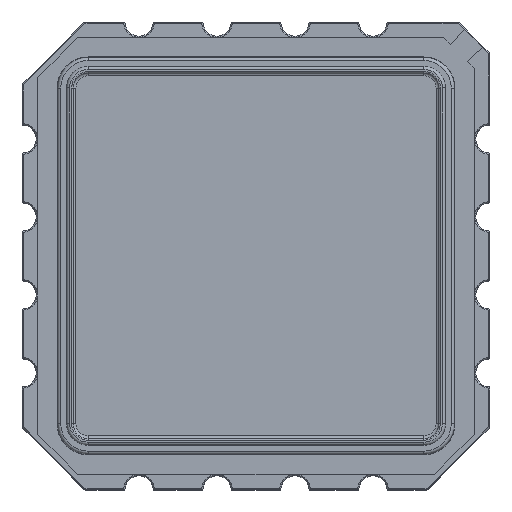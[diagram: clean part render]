
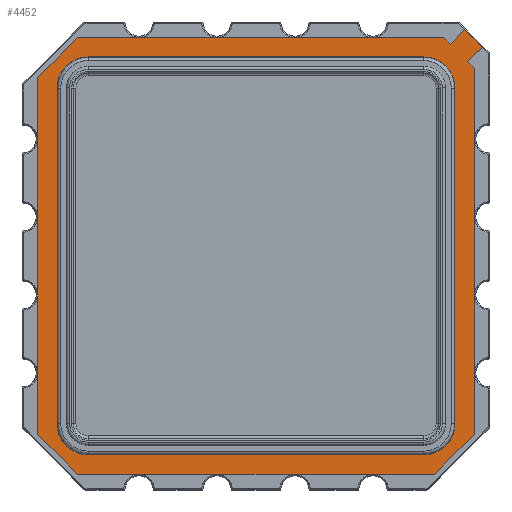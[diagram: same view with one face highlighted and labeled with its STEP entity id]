
A CAD part, top view. The second image highlights one B-rep face of the part: STEP entity #4452.
In plain terms, the highlighted planar face has unit normal (0, 0, 1).
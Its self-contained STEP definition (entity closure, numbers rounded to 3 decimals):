
#108=FACE_BOUND('',#808,.T.);
#318=PLANE('',#4780);
#566=FACE_OUTER_BOUND('',#807,.T.);
#807=EDGE_LOOP('',(#3885,#3886,#3887,#3888,#3889,#3890,#3891,#3892,#3893,
#3894,#3895,#3896));
#808=EDGE_LOOP('',(#3897,#3898,#3899,#3900,#3901,#3902,#3903,#3904));
#1243=LINE('',#7147,#1711);
#1246=LINE('',#7168,#1714);
#1247=LINE('',#7171,#1715);
#1249=LINE('',#7175,#1717);
#1251=LINE('',#7179,#1719);
#1253=LINE('',#7183,#1721);
#1255=LINE('',#7187,#1723);
#1257=LINE('',#7191,#1725);
#1259=LINE('',#7195,#1727);
#1261=LINE('',#7199,#1729);
#1263=LINE('',#7203,#1731);
#1265=LINE('',#7206,#1733);
#1266=LINE('',#7212,#1734);
#1267=LINE('',#7216,#1735);
#1268=LINE('',#7220,#1736);
#1269=LINE('',#7223,#1737);
#1711=VECTOR('',#5699,1000.);
#1714=VECTOR('',#5720,1000.);
#1715=VECTOR('',#5723,1000.);
#1717=VECTOR('',#5727,1000.);
#1719=VECTOR('',#5731,1000.);
#1721=VECTOR('',#5735,1000.);
#1723=VECTOR('',#5739,1000.);
#1725=VECTOR('',#5743,1000.);
#1727=VECTOR('',#5747,1000.);
#1729=VECTOR('',#5751,1000.);
#1731=VECTOR('',#5755,1000.);
#1733=VECTOR('',#5759,1000.);
#1734=VECTOR('',#5764,1000.);
#1735=VECTOR('',#5767,1000.);
#1736=VECTOR('',#5770,1000.);
#1737=VECTOR('',#5773,1000.);
#1870=CIRCLE('',#4781,0.51);
#1871=CIRCLE('',#4782,0.51);
#1872=CIRCLE('',#4783,0.51);
#1873=CIRCLE('',#4784,0.51);
#2229=VERTEX_POINT('',#7144);
#2230=VERTEX_POINT('',#7146);
#2231=VERTEX_POINT('',#7166);
#2232=VERTEX_POINT('',#7170);
#2233=VERTEX_POINT('',#7174);
#2234=VERTEX_POINT('',#7178);
#2235=VERTEX_POINT('',#7182);
#2236=VERTEX_POINT('',#7186);
#2237=VERTEX_POINT('',#7190);
#2238=VERTEX_POINT('',#7194);
#2239=VERTEX_POINT('',#7198);
#2240=VERTEX_POINT('',#7202);
#2241=VERTEX_POINT('',#7208);
#2242=VERTEX_POINT('',#7209);
#2243=VERTEX_POINT('',#7211);
#2244=VERTEX_POINT('',#7213);
#2245=VERTEX_POINT('',#7215);
#2246=VERTEX_POINT('',#7217);
#2247=VERTEX_POINT('',#7219);
#2248=VERTEX_POINT('',#7221);
#2780=EDGE_CURVE('',#2229,#2230,#1243,.T.);
#2785=EDGE_CURVE('',#2231,#2229,#1246,.T.);
#2786=EDGE_CURVE('',#2230,#2232,#1247,.T.);
#2788=EDGE_CURVE('',#2232,#2233,#1249,.T.);
#2790=EDGE_CURVE('',#2234,#2233,#1251,.T.);
#2792=EDGE_CURVE('',#2235,#2234,#1253,.T.);
#2794=EDGE_CURVE('',#2236,#2235,#1255,.T.);
#2796=EDGE_CURVE('',#2237,#2236,#1257,.T.);
#2798=EDGE_CURVE('',#2238,#2237,#1259,.T.);
#2800=EDGE_CURVE('',#2239,#2238,#1261,.T.);
#2802=EDGE_CURVE('',#2240,#2239,#1263,.T.);
#2804=EDGE_CURVE('',#2231,#2240,#1265,.T.);
#2805=EDGE_CURVE('',#2241,#2242,#1870,.T.);
#2806=EDGE_CURVE('',#2243,#2241,#1266,.T.);
#2807=EDGE_CURVE('',#2244,#2243,#1871,.T.);
#2808=EDGE_CURVE('',#2245,#2244,#1267,.T.);
#2809=EDGE_CURVE('',#2246,#2245,#1872,.T.);
#2810=EDGE_CURVE('',#2247,#2246,#1268,.T.);
#2811=EDGE_CURVE('',#2248,#2247,#1873,.T.);
#2812=EDGE_CURVE('',#2242,#2248,#1269,.T.);
#3885=ORIENTED_EDGE('',*,*,#2780,.F.);
#3886=ORIENTED_EDGE('',*,*,#2785,.F.);
#3887=ORIENTED_EDGE('',*,*,#2804,.T.);
#3888=ORIENTED_EDGE('',*,*,#2802,.T.);
#3889=ORIENTED_EDGE('',*,*,#2800,.T.);
#3890=ORIENTED_EDGE('',*,*,#2798,.T.);
#3891=ORIENTED_EDGE('',*,*,#2796,.T.);
#3892=ORIENTED_EDGE('',*,*,#2794,.T.);
#3893=ORIENTED_EDGE('',*,*,#2792,.T.);
#3894=ORIENTED_EDGE('',*,*,#2790,.T.);
#3895=ORIENTED_EDGE('',*,*,#2788,.F.);
#3896=ORIENTED_EDGE('',*,*,#2786,.F.);
#3897=ORIENTED_EDGE('',*,*,#2805,.F.);
#3898=ORIENTED_EDGE('',*,*,#2806,.F.);
#3899=ORIENTED_EDGE('',*,*,#2807,.F.);
#3900=ORIENTED_EDGE('',*,*,#2808,.F.);
#3901=ORIENTED_EDGE('',*,*,#2809,.F.);
#3902=ORIENTED_EDGE('',*,*,#2810,.F.);
#3903=ORIENTED_EDGE('',*,*,#2811,.F.);
#3904=ORIENTED_EDGE('',*,*,#2812,.F.);
#4452=ADVANCED_FACE('',(#566,#108),#318,.F.);
#4780=AXIS2_PLACEMENT_3D('',#7207,#5760,#5761);
#4781=AXIS2_PLACEMENT_3D('',#7210,#5762,#5763);
#4782=AXIS2_PLACEMENT_3D('',#7214,#5765,#5766);
#4783=AXIS2_PLACEMENT_3D('',#7218,#5768,#5769);
#4784=AXIS2_PLACEMENT_3D('',#7222,#5771,#5772);
#5699=DIRECTION('',(0.707,-0.707,0.));
#5720=DIRECTION('',(0.707,0.707,0.));
#5723=DIRECTION('',(-0.707,-0.707,0.));
#5727=DIRECTION('',(0.707,-0.707,0.));
#5731=DIRECTION('',(0.,1.,0.));
#5735=DIRECTION('',(0.707,0.707,0.));
#5739=DIRECTION('',(1.,0.,0.));
#5743=DIRECTION('',(0.707,-0.707,0.));
#5747=DIRECTION('',(0.,-1.,0.));
#5751=DIRECTION('',(-0.707,-0.707,0.));
#5755=DIRECTION('',(-1.,0.,0.));
#5759=DIRECTION('',(-0.707,0.707,0.));
#5760=DIRECTION('center_axis',(0.,0.,-1.));
#5761=DIRECTION('ref_axis',(-1.,0.,0.));
#5762=DIRECTION('center_axis',(0.,0.,1.));
#5763=DIRECTION('ref_axis',(-1.,0.,0.));
#5764=DIRECTION('',(-1.,0.,0.));
#5765=DIRECTION('center_axis',(0.,0.,1.));
#5766=DIRECTION('ref_axis',(0.,1.,0.));
#5767=DIRECTION('',(0.,1.,0.));
#5768=DIRECTION('center_axis',(0.,0.,1.));
#5769=DIRECTION('ref_axis',(1.,0.,0.));
#5770=DIRECTION('',(1.,0.,0.));
#5771=DIRECTION('center_axis',(0.,0.,
1.));
#5772=DIRECTION('ref_axis',(0.,-1.,0.));
#5773=DIRECTION('',(0.,-1.,0.));
#7144=CARTESIAN_POINT('',(3.401,3.684,1.677));
#7146=CARTESIAN_POINT('',(3.684,3.401,1.677));
#7147=CARTESIAN_POINT('',(3.401,3.684,1.677));
#7166=CARTESIAN_POINT('',(3.165,3.447,1.677));
#7168=CARTESIAN_POINT('',(3.165,3.447,1.677));
#7170=CARTESIAN_POINT('',(3.447,3.165,1.677));
#7171=CARTESIAN_POINT('',(3.684,3.401,1.677));
#7174=CARTESIAN_POINT('',(3.556,3.056,1.677));
#7175=CARTESIAN_POINT('',(3.447,3.165,1.677));
#7178=CARTESIAN_POINT('',(3.556,-2.906,1.677));
#7179=CARTESIAN_POINT('',(3.556,-2.906,1.677));
#7182=CARTESIAN_POINT('',(2.906,-3.556,1.677));
#7183=CARTESIAN_POINT('',(2.906,-3.556,1.677));
#7186=CARTESIAN_POINT('',(-2.906,-3.556,1.677));
#7187=CARTESIAN_POINT('',(-2.906,-3.556,1.677));
#7190=CARTESIAN_POINT('',(-3.556,-2.906,1.677));
#7191=CARTESIAN_POINT('',(-3.556,-2.906,1.677));
#7194=CARTESIAN_POINT('',(-3.556,2.906,1.677));
#7195=CARTESIAN_POINT('',(-3.556,-2.906,1.677));
#7198=CARTESIAN_POINT('',(-2.906,3.556,1.677));
#7199=CARTESIAN_POINT('',(-3.556,2.906,1.677));
#7202=CARTESIAN_POINT('',(3.056,3.556,1.677));
#7203=CARTESIAN_POINT('',(-2.906,3.556,1.677));
#7206=CARTESIAN_POINT('',(3.165,3.447,1.677));
#7207=CARTESIAN_POINT('Origin',(0.,0.,1.677));
#7208=CARTESIAN_POINT('',(-2.731,3.241,1.677));
#7209=CARTESIAN_POINT('',(-3.241,2.731,1.677));
#7210=CARTESIAN_POINT('Origin',(-2.731,2.731,1.677));
#7211=CARTESIAN_POINT('',(2.731,3.241,1.677));
#7212=CARTESIAN_POINT('',(0.,3.241,1.677));
#7213=CARTESIAN_POINT('',(3.241,2.731,1.677));
#7214=CARTESIAN_POINT('Origin',(2.731,2.731,1.677));
#7215=CARTESIAN_POINT('',(3.241,-2.731,1.677));
#7216=CARTESIAN_POINT('',(3.241,0.,1.677));
#7217=CARTESIAN_POINT('',(2.731,-3.241,1.677));
#7218=CARTESIAN_POINT('Origin',(2.731,-2.731,1.677));
#7219=CARTESIAN_POINT('',(-2.731,-3.241,1.677));
#7220=CARTESIAN_POINT('',(0.,-3.241,1.677));
#7221=CARTESIAN_POINT('',(-3.241,-2.731,1.677));
#7222=CARTESIAN_POINT('Origin',(-2.731,-2.731,1.677));
#7223=CARTESIAN_POINT('',(-3.241,0.,1.677));
